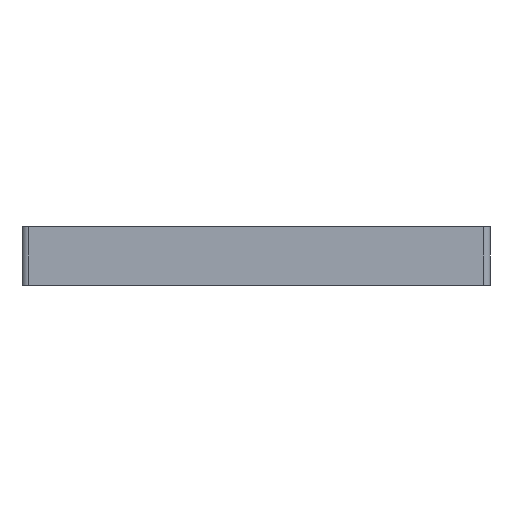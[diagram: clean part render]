
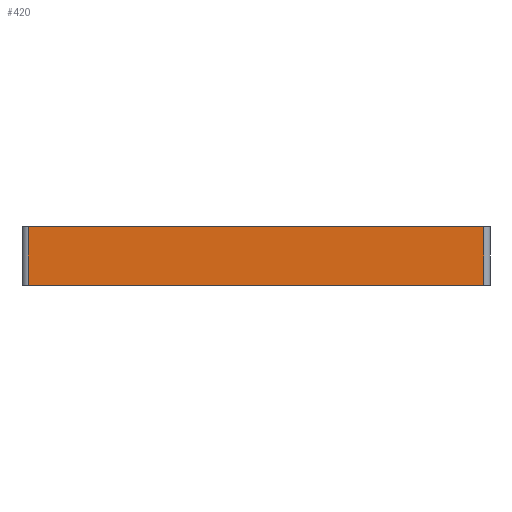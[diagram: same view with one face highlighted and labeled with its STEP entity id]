
A CAD part, front view. The second image highlights one B-rep face of the part: STEP entity #420.
In plain terms, the highlighted planar face has unit normal (0, -1, 0).
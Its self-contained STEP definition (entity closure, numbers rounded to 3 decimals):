
#44 = PLANE('',#45);
#45 = AXIS2_PLACEMENT_3D('',#46,#47,#48);
#46 = CARTESIAN_POINT('',(0.,0.,18.4));
#47 = DIRECTION('',(0.,0.,1.));
#48 = DIRECTION('',(1.,0.,-0.));
#72 = CYLINDRICAL_SURFACE('',#73,2.);
#73 = AXIS2_PLACEMENT_3D('',#74,#75,#76);
#74 = CARTESIAN_POINT('',(2.,2.,0.));
#75 = DIRECTION('',(0.,0.,1.));
#76 = DIRECTION('',(-1.,-0.,0.));
#100 = PLANE('',#101);
#101 = AXIS2_PLACEMENT_3D('',#102,#103,#104);
#102 = CARTESIAN_POINT('',(0.,0.,0.));
#103 = DIRECTION('',(0.,0.,1.));
#104 = DIRECTION('',(1.,0.,-0.));
#347 = VERTEX_POINT('',#348);
#348 = CARTESIAN_POINT('',(2.,0.,0.));
#370 = EDGE_CURVE('',#347,#371,#373,.T.);
#371 = VERTEX_POINT('',#372);
#372 = CARTESIAN_POINT('',(2.,0.,18.4));
#373 = SURFACE_CURVE('',#374,(#378,#385),.PCURVE_S1.);
#374 = LINE('',#375,#376);
#375 = CARTESIAN_POINT('',(2.,0.,0.));
#376 = VECTOR('',#377,1.);
#377 = DIRECTION('',(0.,0.,1.));
#378 = PCURVE('',#72,#379);
#379 = DEFINITIONAL_REPRESENTATION('',(#380),#384);
#380 = LINE('',#381,#382);
#381 = CARTESIAN_POINT('',(1.571,0.));
#382 = VECTOR('',#383,1.);
#383 = DIRECTION('',(0.,1.));
#384 = ( GEOMETRIC_REPRESENTATION_CONTEXT(2) 
PARAMETRIC_REPRESENTATION_CONTEXT() REPRESENTATION_CONTEXT('2D SPACE',''
  ) );
#385 = PCURVE('',#386,#391);
#386 = PLANE('',#387);
#387 = AXIS2_PLACEMENT_3D('',#388,#389,#390);
#388 = CARTESIAN_POINT('',(0.,0.,0.));
#389 = DIRECTION('',(-0.,1.,0.));
#390 = DIRECTION('',(0.,0.,1.));
#391 = DEFINITIONAL_REPRESENTATION('',(#392),#396);
#392 = LINE('',#393,#394);
#393 = CARTESIAN_POINT('',(0.,2.));
#394 = VECTOR('',#395,1.);
#395 = DIRECTION('',(1.,0.));
#396 = ( GEOMETRIC_REPRESENTATION_CONTEXT(2) 
PARAMETRIC_REPRESENTATION_CONTEXT() REPRESENTATION_CONTEXT('2D SPACE',''
  ) );
#420 = ADVANCED_FACE('',(#421),#386,.F.);
#421 = FACE_BOUND('',#422,.F.);
#422 = EDGE_LOOP('',(#423,#446,#447,#470));
#423 = ORIENTED_EDGE('',*,*,#424,.F.);
#424 = EDGE_CURVE('',#347,#425,#427,.T.);
#425 = VERTEX_POINT('',#426);
#426 = CARTESIAN_POINT('',(146.,0.,0.));
#427 = SURFACE_CURVE('',#428,(#432,#439),.PCURVE_S1.);
#428 = LINE('',#429,#430);
#429 = CARTESIAN_POINT('',(0.,0.,0.));
#430 = VECTOR('',#431,1.);
#431 = DIRECTION('',(1.,0.,-0.));
#432 = PCURVE('',#386,#433);
#433 = DEFINITIONAL_REPRESENTATION('',(#434),#438);
#434 = LINE('',#435,#436);
#435 = CARTESIAN_POINT('',(0.,0.));
#436 = VECTOR('',#437,1.);
#437 = DIRECTION('',(0.,1.));
#438 = ( GEOMETRIC_REPRESENTATION_CONTEXT(2) 
PARAMETRIC_REPRESENTATION_CONTEXT() REPRESENTATION_CONTEXT('2D SPACE',''
  ) );
#439 = PCURVE('',#100,#440);
#440 = DEFINITIONAL_REPRESENTATION('',(#441),#445);
#441 = LINE('',#442,#443);
#442 = CARTESIAN_POINT('',(0.,0.));
#443 = VECTOR('',#444,1.);
#444 = DIRECTION('',(1.,0.));
#445 = ( GEOMETRIC_REPRESENTATION_CONTEXT(2) 
PARAMETRIC_REPRESENTATION_CONTEXT() REPRESENTATION_CONTEXT('2D SPACE',''
  ) );
#446 = ORIENTED_EDGE('',*,*,#370,.T.);
#447 = ORIENTED_EDGE('',*,*,#448,.T.);
#448 = EDGE_CURVE('',#371,#449,#451,.T.);
#449 = VERTEX_POINT('',#450);
#450 = CARTESIAN_POINT('',(146.,0.,18.4));
#451 = SURFACE_CURVE('',#452,(#456,#463),.PCURVE_S1.);
#452 = LINE('',#453,#454);
#453 = CARTESIAN_POINT('',(0.,0.,18.4));
#454 = VECTOR('',#455,1.);
#455 = DIRECTION('',(1.,0.,-0.));
#456 = PCURVE('',#386,#457);
#457 = DEFINITIONAL_REPRESENTATION('',(#458),#462);
#458 = LINE('',#459,#460);
#459 = CARTESIAN_POINT('',(18.4,0.));
#460 = VECTOR('',#461,1.);
#461 = DIRECTION('',(0.,1.));
#462 = ( GEOMETRIC_REPRESENTATION_CONTEXT(2) 
PARAMETRIC_REPRESENTATION_CONTEXT() REPRESENTATION_CONTEXT('2D SPACE',''
  ) );
#463 = PCURVE('',#44,#464);
#464 = DEFINITIONAL_REPRESENTATION('',(#465),#469);
#465 = LINE('',#466,#467);
#466 = CARTESIAN_POINT('',(0.,0.));
#467 = VECTOR('',#468,1.);
#468 = DIRECTION('',(1.,0.));
#469 = ( GEOMETRIC_REPRESENTATION_CONTEXT(2) 
PARAMETRIC_REPRESENTATION_CONTEXT() REPRESENTATION_CONTEXT('2D SPACE',''
  ) );
#470 = ORIENTED_EDGE('',*,*,#471,.F.);
#471 = EDGE_CURVE('',#425,#449,#472,.T.);
#472 = SURFACE_CURVE('',#473,(#477,#484),.PCURVE_S1.);
#473 = LINE('',#474,#475);
#474 = CARTESIAN_POINT('',(146.,0.,0.));
#475 = VECTOR('',#476,1.);
#476 = DIRECTION('',(0.,0.,1.));
#477 = PCURVE('',#386,#478);
#478 = DEFINITIONAL_REPRESENTATION('',(#479),#483);
#479 = LINE('',#480,#481);
#480 = CARTESIAN_POINT('',(0.,146.));
#481 = VECTOR('',#482,1.);
#482 = DIRECTION('',(1.,0.));
#483 = ( GEOMETRIC_REPRESENTATION_CONTEXT(2) 
PARAMETRIC_REPRESENTATION_CONTEXT() REPRESENTATION_CONTEXT('2D SPACE',''
  ) );
#484 = PCURVE('',#485,#490);
#485 = CYLINDRICAL_SURFACE('',#486,2.);
#486 = AXIS2_PLACEMENT_3D('',#487,#488,#489);
#487 = CARTESIAN_POINT('',(146.,2.,0.));
#488 = DIRECTION('',(0.,0.,1.));
#489 = DIRECTION('',(1.,0.,-0.));
#490 = DEFINITIONAL_REPRESENTATION('',(#491),#495);
#491 = LINE('',#492,#493);
#492 = CARTESIAN_POINT('',(-1.571,0.));
#493 = VECTOR('',#494,1.);
#494 = DIRECTION('',(-0.,1.));
#495 = ( GEOMETRIC_REPRESENTATION_CONTEXT(2) 
PARAMETRIC_REPRESENTATION_CONTEXT() REPRESENTATION_CONTEXT('2D SPACE',''
  ) );
